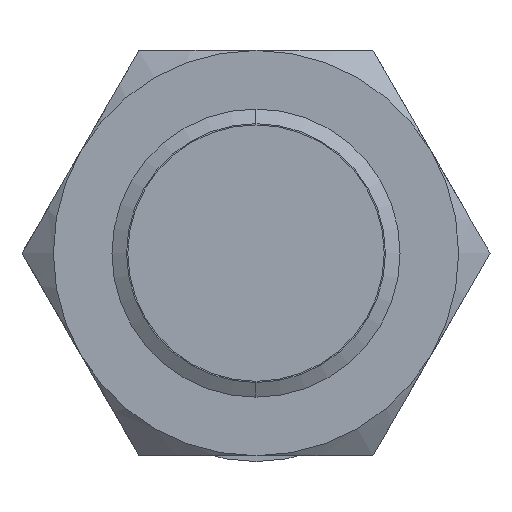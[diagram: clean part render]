
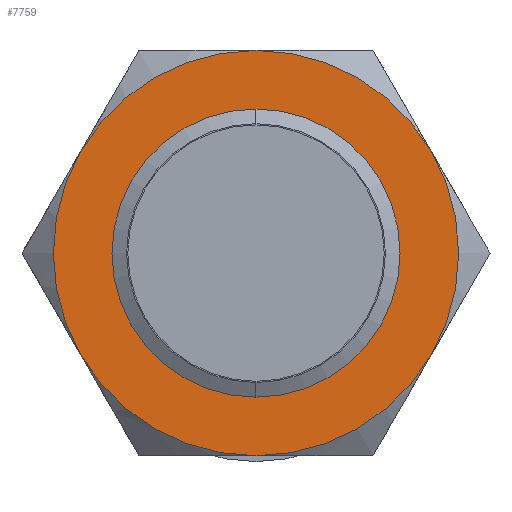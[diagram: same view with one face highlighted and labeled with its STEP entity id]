
A CAD part, left-side view. The second image highlights one B-rep face of the part: STEP entity #7759.
In plain terms, the highlighted planar face has unit normal (-1, 0, 0).
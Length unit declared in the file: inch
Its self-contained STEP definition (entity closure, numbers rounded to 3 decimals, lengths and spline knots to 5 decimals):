
#244 = EDGE_CURVE ( 'NONE', #7098, #13483, #8009, .T. ) ;
#695 = FACE_BOUND ( 'NONE', #7691, .T. ) ;
#696 = FACE_OUTER_BOUND ( 'NONE', #7367, .T. ) ;
#697 = PLANE ( 'NONE',  #698 ) ;
#698 = AXIS2_PLACEMENT_3D ( 'NONE', #699, #700, #701 ) ;
#699 = CARTESIAN_POINT ( 'NONE',  ( 0.70974, 0.03598, 0.00206 ) ) ;
#700 = DIRECTION ( 'NONE',  ( 1., 0., 0. ) ) ;
#701 = DIRECTION ( 'NONE',  ( 0., 0., -1. ) ) ;
#1120 = CARTESIAN_POINT ( 'NONE',  ( 0.70974, 0.03598, 0.23306 ) ) ;
#1278 = CARTESIAN_POINT ( 'NONE',  ( 0.70974, 0.03598, -0.22894 ) ) ;
#1397 = CIRCLE ( 'NONE', #1398, 0.231 ) ;
#1398 = AXIS2_PLACEMENT_3D ( 'NONE', #1399, #1400, #1401 ) ;
#1399 = CARTESIAN_POINT ( 'NONE',  ( 0.70974, 0.03598, 0.00206 ) ) ;
#1400 = DIRECTION ( 'NONE',  ( -1., 0., 0. ) ) ;
#1401 = DIRECTION ( 'NONE',  ( 0., 0., -1. ) ) ;
#1519 = CARTESIAN_POINT ( 'NONE',  ( 0.70974, 0.03598, 0.33406 ) ) ;
#1906 = VERTEX_POINT ( 'NONE', #8901 ) ;
#2441 = CIRCLE ( 'NONE', #2442, 0.332 ) ;
#2442 = AXIS2_PLACEMENT_3D ( 'NONE', #2443, #2444, #2445 ) ;
#2443 = CARTESIAN_POINT ( 'NONE',  ( 0.70974, 0.03598, 0.00206 ) ) ;
#2444 = DIRECTION ( 'NONE',  ( 1., 0., 0. ) ) ;
#2445 = DIRECTION ( 'NONE',  ( 0., 0., -1. ) ) ;
#3108 = EDGE_CURVE ( 'NONE', #5800, #7098, #9590, .T. ) ;
#3512 = CARTESIAN_POINT ( 'NONE',  ( 0.70974, -0.25154, 0.16806 ) ) ;
#3608 = CIRCLE ( 'NONE', #3609, 0.332 ) ;
#3609 = AXIS2_PLACEMENT_3D ( 'NONE', #3610, #3611, #3612 ) ;
#3610 = CARTESIAN_POINT ( 'NONE',  ( 0.70974, 0.03598, 0.00206 ) ) ;
#3611 = DIRECTION ( 'NONE',  ( 1., 0., 0. ) ) ;
#3612 = DIRECTION ( 'NONE',  ( 0., 0., -1. ) ) ;
#3981 = CARTESIAN_POINT ( 'NONE',  ( 0.70974, 0.3235, 0.16806 ) ) ;
#4359 = EDGE_CURVE ( 'NONE', #8084, #8345, #10207, .T. ) ;
#5800 = VERTEX_POINT ( 'NONE', #10971 ) ;
#6488 = EDGE_CURVE ( 'NONE', #13483, #8777, #12048, .T. ) ;
#6797 = ORIENTED_EDGE ( 'NONE', *, *, #12894, .F. ) ;
#6937 = ORIENTED_EDGE ( 'NONE', *, *, #10631, .F. ) ;
#7057 = ORIENTED_EDGE ( 'NONE', *, *, #3108, .F. ) ;
#7098 = VERTEX_POINT ( 'NONE', #14080 ) ;
#7205 = ORIENTED_EDGE ( 'NONE', *, *, #244, .F. ) ;
#7330 = EDGE_CURVE ( 'NONE', #8777, #12690, #14730, .T. ) ;
#7367 = EDGE_LOOP ( 'NONE', ( #7205, #7057, #6937, #6797, #12987, #12443 ) ) ;
#7425 = ORIENTED_EDGE ( 'NONE', *, *, #4359, .F. ) ;
#7558 = ORIENTED_EDGE ( 'NONE', *, *, #8588, .F. ) ;
#7691 = EDGE_LOOP ( 'NONE', ( #7558, #7425 ) ) ;
#7759 = ADVANCED_FACE ( 'NONE', ( #695, #696 ), #697, .F. ) ;
#8009 = CIRCLE ( 'NONE', #8010, 0.332 ) ;
#8010 = AXIS2_PLACEMENT_3D ( 'NONE', #8011, #8012, #8013 ) ;
#8011 = CARTESIAN_POINT ( 'NONE',  ( 0.70974, 0.03598, 0.00206 ) ) ;
#8012 = DIRECTION ( 'NONE',  ( 1., 0., 0. ) ) ;
#8013 = DIRECTION ( 'NONE',  ( 0., 0., -1. ) ) ;
#8084 = VERTEX_POINT ( 'NONE', #1120 ) ;
#8345 = VERTEX_POINT ( 'NONE', #1278 ) ;
#8588 = EDGE_CURVE ( 'NONE', #8345, #8084, #1397, .T. ) ;
#8777 = VERTEX_POINT ( 'NONE', #1519 ) ;
#8901 = CARTESIAN_POINT ( 'NONE',  ( 0.70974, -0.25154, -0.16394 ) ) ;
#9590 = CIRCLE ( 'NONE', #9591, 0.332 ) ;
#9591 = AXIS2_PLACEMENT_3D ( 'NONE', #9592, #9593, #9594 ) ;
#9592 = CARTESIAN_POINT ( 'NONE',  ( 0.70974, 0.03598, 0.00206 ) ) ;
#9593 = DIRECTION ( 'NONE',  ( 1., 0., 0. ) ) ;
#9594 = DIRECTION ( 'NONE',  ( 0., 0., -1. ) ) ;
#10207 = CIRCLE ( 'NONE', #10208, 0.231 ) ;
#10208 = AXIS2_PLACEMENT_3D ( 'NONE', #10209, #10210, #10211 ) ;
#10209 = CARTESIAN_POINT ( 'NONE',  ( 0.70974, 0.03598, 0.00206 ) ) ;
#10210 = DIRECTION ( 'NONE',  ( -1., 0., 0. ) ) ;
#10211 = DIRECTION ( 'NONE',  ( 0., 0., -1. ) ) ;
#10631 = EDGE_CURVE ( 'NONE', #1906, #5800, #2441, .T. ) ;
#10971 = CARTESIAN_POINT ( 'NONE',  ( 0.70974, 0.03598, -0.32994 ) ) ;
#12048 = CIRCLE ( 'NONE', #12049, 0.332 ) ;
#12049 = AXIS2_PLACEMENT_3D ( 'NONE', #12050, #12051, #12052 ) ;
#12050 = CARTESIAN_POINT ( 'NONE',  ( 0.70974, 0.03598, 0.00206 ) ) ;
#12051 = DIRECTION ( 'NONE',  ( 1., 0., 0. ) ) ;
#12052 = DIRECTION ( 'NONE',  ( 0., 0., -1. ) ) ;
#12443 = ORIENTED_EDGE ( 'NONE', *, *, #6488, .F. ) ;
#12690 = VERTEX_POINT ( 'NONE', #3512 ) ;
#12894 = EDGE_CURVE ( 'NONE', #12690, #1906, #3608, .T. ) ;
#12987 = ORIENTED_EDGE ( 'NONE', *, *, #7330, .F. ) ;
#13483 = VERTEX_POINT ( 'NONE', #3981 ) ;
#14080 = CARTESIAN_POINT ( 'NONE',  ( 0.70974, 0.3235, -0.16394 ) ) ;
#14730 = CIRCLE ( 'NONE', #14731, 0.332 ) ;
#14731 = AXIS2_PLACEMENT_3D ( 'NONE', #14732, #14733, #14734 ) ;
#14732 = CARTESIAN_POINT ( 'NONE',  ( 0.70974, 0.03598, 0.00206 ) ) ;
#14733 = DIRECTION ( 'NONE',  ( 1., 0., 0. ) ) ;
#14734 = DIRECTION ( 'NONE',  ( 0., 0., -1. ) ) ;
